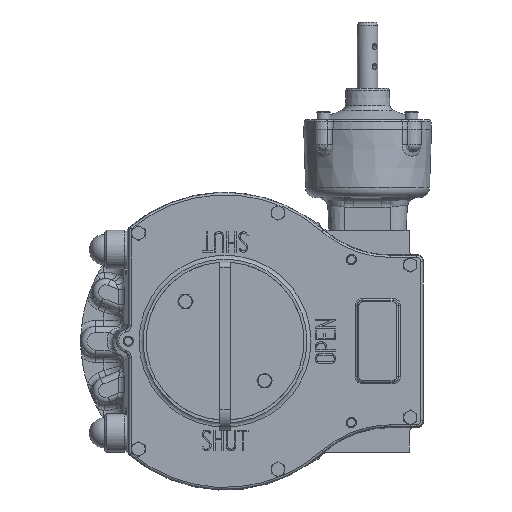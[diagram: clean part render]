
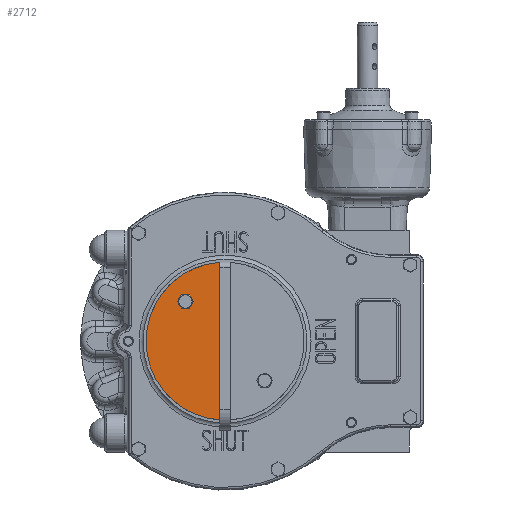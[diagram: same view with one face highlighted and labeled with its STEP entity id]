
A CAD part, top view. The second image highlights one B-rep face of the part: STEP entity #2712.
In plain terms, the highlighted planar face has unit normal (0, 0, 1).
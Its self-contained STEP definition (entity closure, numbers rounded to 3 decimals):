
#2712 = ADVANCED_FACE( '', ( #7532, #7533 ), #7534, .F. );
#7532 = FACE_BOUND( '', #17862, .T. );
#7533 = FACE_OUTER_BOUND( '', #17863, .T. );
#7534 = PLANE( '', #17864 );
#17862 = EDGE_LOOP( '', ( #53496 ) );
#17863 = EDGE_LOOP( '', ( #53497, #53498 ) );
#17864 = AXIS2_PLACEMENT_3D( '', #53499, #53500, #53501 );
#53496 = ORIENTED_EDGE( '', *, *, #72118, .T. );
#53497 = ORIENTED_EDGE( '', *, *, #72119, .F. );
#53498 = ORIENTED_EDGE( '', *, *, #72120, .F. );
#53499 = CARTESIAN_POINT( '', ( 0., 0., 119. ) );
#53500 = DIRECTION( '', ( 0., 0., -1. ) );
#53501 = DIRECTION( '', ( 0., -1., 0. ) );
#72118 = EDGE_CURVE( '', #80571, #80571, #80572, .T. );
#72119 = EDGE_CURVE( '', #80573, #80574, #80575, .T. );
#72120 = EDGE_CURVE( '', #80574, #80573, #80576, .T. );
#80571 = VERTEX_POINT( '', #96041 );
#80572 = CIRCLE( '', #96042, 7. );
#80573 = VERTEX_POINT( '', #96043 );
#80574 = VERTEX_POINT( '', #96044 );
#80575 = LINE( '', #96045, #96046 );
#80576 = CIRCLE( '', #96047, 77.5 );
#96041 = CARTESIAN_POINT( '', ( -45.891, 38.891, 119. ) );
#96042 = AXIS2_PLACEMENT_3D( '', #124019, #124020, #124021 );
#96043 = CARTESIAN_POINT( '', ( -5., 77.339, 119. ) );
#96044 = CARTESIAN_POINT( '', ( -5., -77.339, 119. ) );
#96045 = CARTESIAN_POINT( '', ( -5., 77.5, 119. ) );
#96046 = VECTOR( '', #124022, 1000. );
#96047 = AXIS2_PLACEMENT_3D( '', #124023, #124024, #124025 );
#124019 = CARTESIAN_POINT( '', ( -38.891, 38.891, 119. ) );
#124020 = DIRECTION( '', ( 0., 0., -1. ) );
#124021 = DIRECTION( '', ( -1., 0., 0. ) );
#124022 = DIRECTION( '', ( 0., -1., 0. ) );
#124023 = CARTESIAN_POINT( '', ( 0., 0., 119. ) );
#124024 = DIRECTION( '', ( 0., 0., -1. ) );
#124025 = DIRECTION( '', ( 0., 1., 0. ) );
